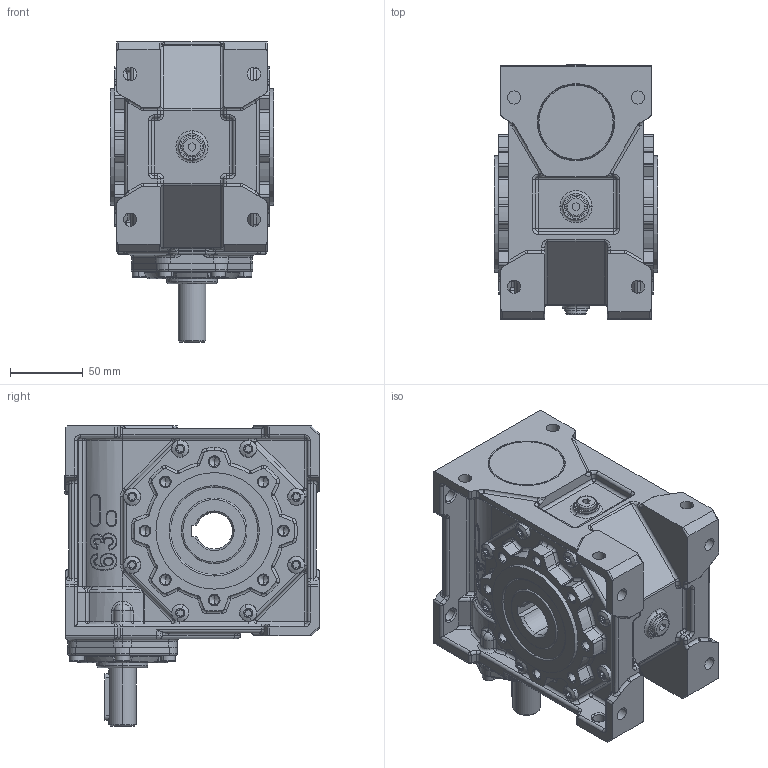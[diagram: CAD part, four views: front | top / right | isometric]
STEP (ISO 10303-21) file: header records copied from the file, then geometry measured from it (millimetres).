
FILE_DESCRIPTION (( 'STEP AP214' ), '1' );
FILE_NAME ('MKT63-FTRL-SolidShaft.STEP', '2006-05-09T11:47:22', ( '' ), ( '' ), 'SwSTEP 2.0', 'SolidWorks 2004146', '' );
FILE_SCHEMA (( 'AUTOMOTIVE_DESIGN' ));
Length unit declared in the file: millimetre
Products named in the file (4): Víèko MKT63_Výchozí; Skrin MKT63_MKT63 SolidShaft ; D6912_Šroub DIN 6912 - M6x25; MKT63-FTRL-SolidShaft
Assembly tree (8 placements, depth 2):
  MKT63-FTRL-SolidShaft
    D6912_Šroub DIN 6912 - M6x25  x6
    Skrin MKT63_MKT63 SolidShaft 
    Víèko MKT63_Výchozí
Bounding box: 112 x 174.5 x 206 mm (x, y, z)
Volume: 2023397.6 mm3; surface area: 193706.9 mm2
Topology: 8 solids, 8 shells, 2041 faces, 4871 edges, 2818 vertices
Faces by surface type: cylinder 796, plane 362, torus 334, bspline 206, cone 199, sphere 144
Entity records: 189155 total; most frequent: CARTESIAN_POINT 142323, DIRECTION 9473, ORIENTED_EDGE 8828, EDGE_CURVE 4414, AXIS2_PLACEMENT_3D 3968, VERTEX_POINT 2643, CIRCLE 2307, EDGE_LOOP 1979
